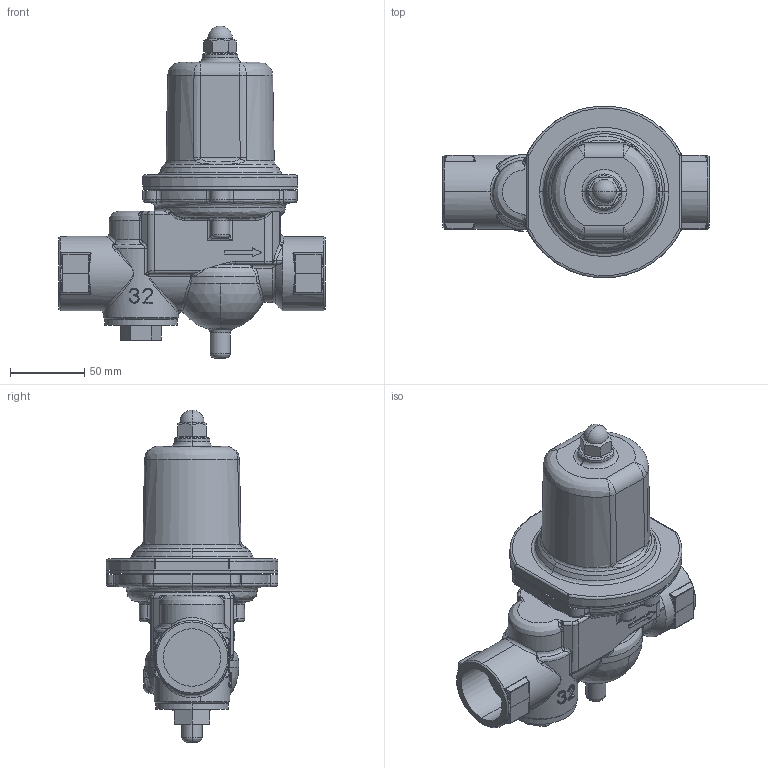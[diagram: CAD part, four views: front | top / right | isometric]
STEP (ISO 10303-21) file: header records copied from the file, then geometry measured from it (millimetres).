
FILE_DESCRIPTION( (''), '2;1');
FILE_NAME ('PC1027.4860.GD-28-NE　32A_28730.stp','2025-07-25T17:44:24',(''),(''),'spGate 19.8.4 (****-****-****-****)','','');
FILE_SCHEMA (('AUTOMOTIVE_DESIGN'));
Length unit declared in the file: millimetre
Products named in the file (6): Assembly; GD-26-NE ダイヤフラム 32-40A; GD-26-NE 保護筒 32-40A; GD-26-NE 六角袋ナット 32-50A; GD-26-NE ストレーナキャップ 32-50A; GD-28-NE 弁箱 32A
Assembly tree (5 placements, depth 2):
  Assembly
    GD-26-NE ダイヤフラム 32-40A
    GD-26-NE 保護筒 32-40A
    GD-26-NE 六角袋ナット 32-50A
    GD-26-NE ストレーナキャップ 32-50A
    GD-28-NE 弁箱 32A
Bounding box: 180 x 115.97 x 224 mm (x, y, z)
Volume: 1042923.7 mm3; surface area: 132073.4 mm2
Topology: 5 solids, 5 shells, 618 faces, 1505 edges, 860 vertices
Faces by surface type: bspline 307, cylinder 172, plane 97, sphere 42
Entity records: 41766 total; most frequent: CARTESIAN_POINT 18241, ORIENTED_EDGE 2898, COLOUR_RGB 2071, PRESENTATION_STYLE_ASSIGNMENT 2071, STYLED_ITEM 2071, DIRECTION 1921, EDGE_CURVE 1449, DRAUGHTING_PRE_DEFINED_CURVE_FONT 1449
